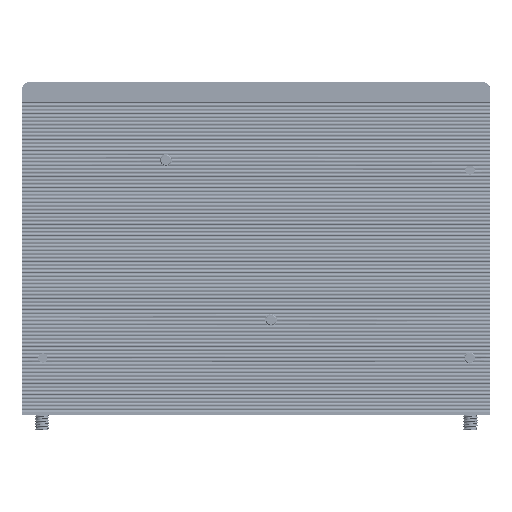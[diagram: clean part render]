
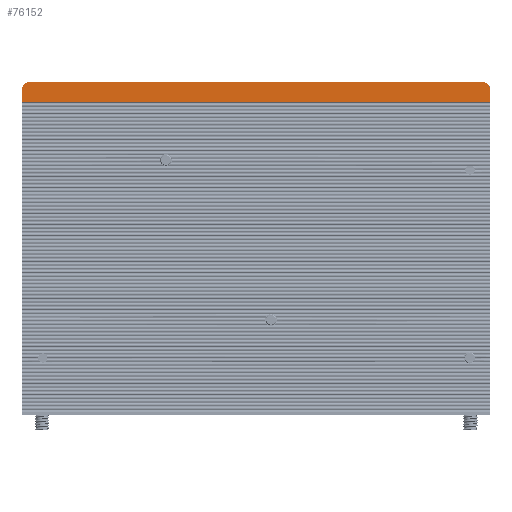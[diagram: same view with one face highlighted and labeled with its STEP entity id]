
A CAD part, left-side view. The second image highlights one B-rep face of the part: STEP entity #76152.
In plain terms, the highlighted planar face has unit normal (-1, 0, 0).
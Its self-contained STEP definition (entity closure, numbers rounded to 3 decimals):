
#71525=CARTESIAN_POINT('Line Origine',(-5.7,123.3,85.873)) ;
#71529=CARTESIAN_POINT('Vertex',(-5.7,123.3,87.645)) ;
#71531=CARTESIAN_POINT('Vertex',(-5.7,123.3,84.102)) ;
#75759=CARTESIAN_POINT('Axis2P3D Location',(-5.7,0.,82.)) ;
#76111=CARTESIAN_POINT('Line Origine',(-5.7,-3.3,85.873)) ;
#76115=CARTESIAN_POINT('Vertex',(-5.7,-3.3,87.645)) ;
#76117=CARTESIAN_POINT('Vertex',(-5.7,-3.3,84.102)) ;
#76120=CARTESIAN_POINT('Axis2P3D Location',(-5.7,-1.4,87.645)) ;
#76124=CARTESIAN_POINT('Vertex',(-5.7,-1.4,89.545)) ;
#76127=CARTESIAN_POINT('Line Origine',(-5.7,60.,89.545)) ;
#76131=CARTESIAN_POINT('Vertex',(-5.7,121.4,89.545)) ;
#76134=CARTESIAN_POINT('Axis2P3D Location',(-5.7,121.4,87.645)) ;
#76139=CARTESIAN_POINT('Line Origine',(-5.7,60.,84.102)) ;
#71526=DIRECTION('Vector Direction',(0.,0.,-1.)) ;
#75760=DIRECTION('Axis2P3D Direction',(1.,0.,0.)) ;
#75761=DIRECTION('Axis2P3D XDirection',(0.,0.,1.)) ;
#76112=DIRECTION('Vector Direction',(0.,0.,-1.)) ;
#76121=DIRECTION('Axis2P3D Direction',(1.,0.,0.)) ;
#76128=DIRECTION('Vector Direction',(0.,-1.,0.)) ;
#76135=DIRECTION('Axis2P3D Direction',(1.,0.,0.)) ;
#76140=DIRECTION('Vector Direction',(0.,1.,0.)) ;
#75762=AXIS2_PLACEMENT_3D('Plane Axis2P3D',#75759,#75760,#75761) ;
#76122=AXIS2_PLACEMENT_3D('Circle Axis2P3D',#76120,#76121,$) ;
#76136=AXIS2_PLACEMENT_3D('Circle Axis2P3D',#76134,#76135,$) ;
#76145=ORIENTED_EDGE('',*,*,#76119,.F.) ;
#76146=ORIENTED_EDGE('',*,*,#76126,.T.) ;
#76147=ORIENTED_EDGE('',*,*,#76133,.F.) ;
#76148=ORIENTED_EDGE('',*,*,#76138,.T.) ;
#76149=ORIENTED_EDGE('',*,*,#71533,.T.) ;
#76150=ORIENTED_EDGE('',*,*,#76143,.F.) ;
#71527=VECTOR('Line Direction',#71526,1.) ;
#76113=VECTOR('Line Direction',#76112,1.) ;
#76129=VECTOR('Line Direction',#76128,1.) ;
#76141=VECTOR('Line Direction',#76140,1.) ;
#76152=ADVANCED_FACE('MANIFOLD_SOLID_BREP #90290',(#76151),#75763,.F.) ;
#76123=CIRCLE('generated circle',#76122,1.9) ;
#76137=CIRCLE('generated circle',#76136,1.9) ;
#71533=EDGE_CURVE('',#71530,#71532,#71528,.T.) ;
#76119=EDGE_CURVE('',#76116,#76118,#76114,.T.) ;
#76126=EDGE_CURVE('',#76116,#76125,#76123,.F.) ;
#76133=EDGE_CURVE('',#76132,#76125,#76130,.T.) ;
#76138=EDGE_CURVE('',#76132,#71530,#76137,.F.) ;
#76143=EDGE_CURVE('',#76118,#71532,#76142,.T.) ;
#76144=EDGE_LOOP('',(#76145,#76146,#76147,#76148,#76149,#76150)) ;
#76151=FACE_OUTER_BOUND('',#76144,.T.) ;
#71528=LINE('Line',#71525,#71527) ;
#76114=LINE('Line',#76111,#76113) ;
#76130=LINE('Line',#76127,#76129) ;
#76142=LINE('Line',#76139,#76141) ;
#75763=PLANE('',#75762) ;
#71530=VERTEX_POINT('',#71529) ;
#71532=VERTEX_POINT('',#71531) ;
#76116=VERTEX_POINT('',#76115) ;
#76118=VERTEX_POINT('',#76117) ;
#76125=VERTEX_POINT('',#76124) ;
#76132=VERTEX_POINT('',#76131) ;
